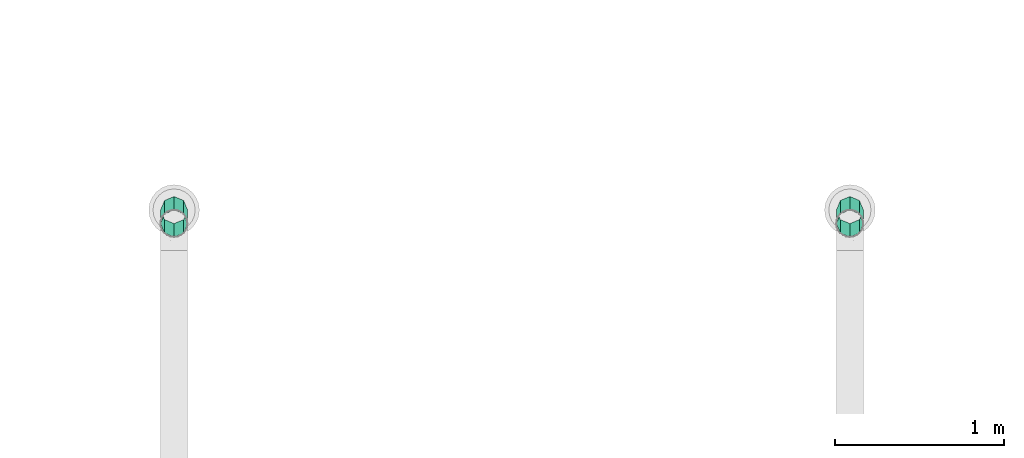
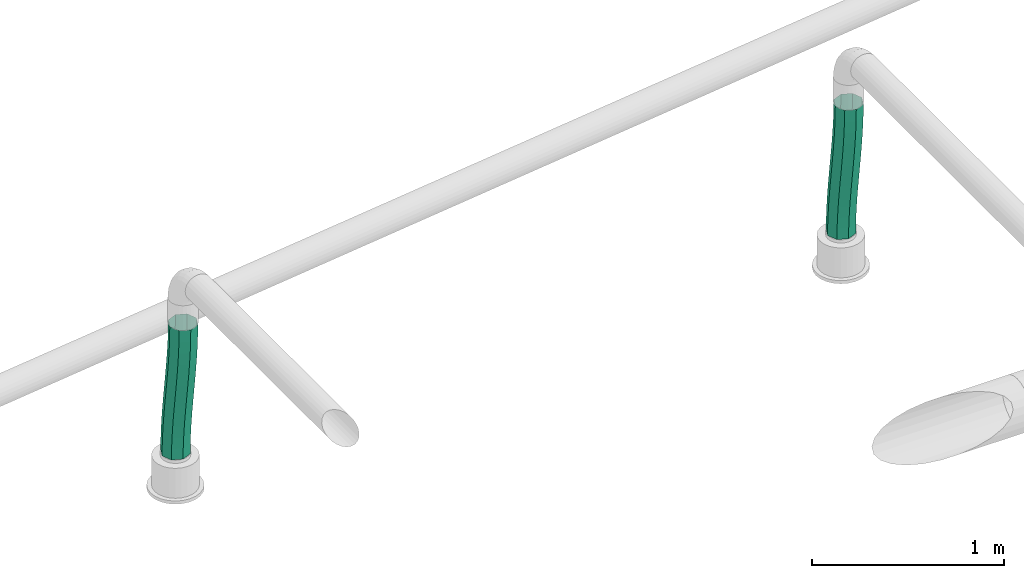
# One storey, part 243 of 374: 2 flow segments.
"""IFC2X3 building model written with IfcOpenShell, lengths in metres."""

from ifc_helpers import new_model, si_unit, direction, origin, place, context, subcontext, project, spatial, open_shell, surface_model, source, transform, mapped, element, save


model = new_model("IFC2X3")

# Units and contexts
model_context = context("Model", 3, precision=1e-05, world=origin(), true_north=direction((-0.4480736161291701, 0.8939966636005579)))
body_context = subcontext(model_context, "Body", "Model", "MODEL_VIEW")
ifc_project = project(units=[si_unit("LENGTHUNIT", "METRE"), si_unit("AREAUNIT", "SQUARE_METRE"), si_unit("VOLUMEUNIT", "CUBIC_METRE"), si_unit("PLANEANGLEUNIT", "RADIAN"), si_unit("THERMODYNAMICTEMPERATUREUNIT", "KELVIN"), si_unit("MASSUNIT", "GRAM", prefix="KILO"), si_unit("TIMEUNIT", "SECOND")], contexts=[model_context])

# Site, building, storey
site_placement = place(None, origin())
site = spatial("IfcSite", under=ifc_project, at=site_placement, Name="Site 1", CompositionType="ELEMENT")
building_placement = place(site_placement, origin())
building = spatial("IfcBuilding", under=site, at=building_placement, Name="Undefined", CompositionType="ELEMENT")
storey_placement = place(building_placement, origin())
storey = spatial("IfcBuildingStorey", under=building, at=storey_placement, Name="Rez de chauss\x8ee", CompositionType="ELEMENT", Elevation=0.0)

# Flow segments
shared_shape_1 = source(origin(), body_context, "Body", "SurfaceModel", [
    surface_model("IfcFaceBasedSurfaceModel", [(0.09425707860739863, 3.552713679e-15, 0.0), (0.05356602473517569, 0.0457522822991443, 1.776356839e-15), (0.0, 0.0, 0.0), (0.03894014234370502, -0.04725143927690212, -1.1507804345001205e-06), (-0.055412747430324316, -0.04404153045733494, 0.0010358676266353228), (-0.017993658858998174, -0.09250640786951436, 0.001061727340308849), (-0.11243304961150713, -0.08679100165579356, 0.002911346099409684), (-0.0762209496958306, -0.13616420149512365, 0.0029758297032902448), (-0.1707571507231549, -0.12862219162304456, 0.005426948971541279), (-0.13541835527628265, -0.17862411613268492, 0.005528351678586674), (-0.2300733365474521, -0.1699145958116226, 0.00837924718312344), (-0.19526250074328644, -0.22028544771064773, 0.008506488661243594), (-0.29006425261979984, -0.21105507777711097, 0.011560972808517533), (-0.25543001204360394, -0.261547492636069, 0.01169743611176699), (-0.3504083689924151, -0.2524387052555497, 0.014761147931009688), (-0.31559752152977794, -0.3028095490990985, 0.014888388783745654), (-0.41078047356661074, -0.2944689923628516, 0.01776513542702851), (-0.37544166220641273, -0.34447090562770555, 0.017866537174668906), (-0.47085117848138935, -0.33755765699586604, 0.020354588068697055), (-0.4346390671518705, -0.3869308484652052, 0.020419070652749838), (-0.5302854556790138, -0.38212378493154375, 0.022307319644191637), (-0.4928663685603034, -0.4305886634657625, 0.022333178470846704), (-0.5887403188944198, -0.4285921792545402, 0.023397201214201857), (-0.5498001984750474, -0.47584363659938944, 0.023396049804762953), (-0.6458081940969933, -0.47734272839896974, 0.023394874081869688), (-0.6051171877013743, -0.5230950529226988, 0.023394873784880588), (0.025061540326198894, 0.07834277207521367, -0.04329419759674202), (-0.02777923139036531, 0.03321146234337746, -0.043293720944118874), (-0.08256193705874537, -0.010327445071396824, -0.04226904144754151), (-0.13908228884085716, -0.05270067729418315, -0.040409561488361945), (-0.19704465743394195, -0.09427144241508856, -0.03790925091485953), (-0.2561421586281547, -0.135411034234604, -0.0349676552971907), (-0.3160599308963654, -0.17650116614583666, -0.031789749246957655), (-0.3764772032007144, -0.21793515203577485, -0.028585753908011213), (-0.43706799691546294, -0.2601182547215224, -0.025571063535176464), (-0.4975004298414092, -0.303467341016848, -0.02296631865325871), (-0.5574346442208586, -0.3484096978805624, -0.02099758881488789), (-0.6165195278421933, -0.3953806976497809, -0.019896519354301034), (-0.6743126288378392, -0.4447521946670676, -0.01989932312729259), (0.02544116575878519, 0.07868040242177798, -0.10452143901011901), (-0.028124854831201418, 0.03292812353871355, -0.10452143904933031), (-0.08353760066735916, -0.011113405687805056, -0.10348557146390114), (-0.14055790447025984, -0.05386287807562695, -0.10161009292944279), (-0.19888201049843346, -0.09569407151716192, -0.09909448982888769), (-0.25819820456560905, -0.13698648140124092, -0.09614219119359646), (-0.3181891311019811, -0.178126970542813, -0.09296046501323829), (-0.3785332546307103, -0.21951060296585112, -0.08976028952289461), (-0.4389053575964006, -0.2615408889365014, -0.08675630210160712), (-0.4989760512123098, -0.3046295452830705, -0.08416684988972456), (-0.5584103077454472, -0.3491956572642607, -0.08221411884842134), (-0.6168651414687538, -0.395664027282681, -0.08112423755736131), (-0.673932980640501, -0.44441454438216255, -0.08112656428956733), (0.05448252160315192, 0.04656739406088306, -0.1478156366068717), (-0.0008344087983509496, -0.0006840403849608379, -0.14781678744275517), (-0.05776820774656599, -0.04593900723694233, -0.14675390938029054), (-0.11599550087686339, -0.08959680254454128, -0.1448398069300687), (-0.17519291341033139, -0.13205672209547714, -0.1422872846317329), (-0.23503707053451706, -0.17371806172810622, -0.13930914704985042), (-0.2952045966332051, -0.21498011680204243, -0.1361181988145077), (-0.35537211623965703, -0.2562421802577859, -0.13292724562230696), (-0.4152162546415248, -0.29790353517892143, -0.12994909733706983), (-0.47441364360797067, -0.3403634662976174, -0.1273965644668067), (-0.5326409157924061, -0.3840212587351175, -0.12548245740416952), (-0.5895747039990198, -0.4292761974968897, -0.12441958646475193), (-0.6448916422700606, -0.47652756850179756, -0.12442076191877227), (0.09517357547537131, 0.0008151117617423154, -0.1478156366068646), (0.038105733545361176, -0.04793547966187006, -0.14781793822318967), (-0.02034911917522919, -0.09440388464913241, -0.14672804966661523), (-0.07978340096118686, -0.13897000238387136, -0.1447753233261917), (-0.13985411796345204, -0.18205864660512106, -0.1421858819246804), (-0.20022623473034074, -0.22408891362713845, -0.13918190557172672), (-0.2605703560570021, -0.2654725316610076, -0.1359817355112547), (-0.32056126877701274, -0.30661302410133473, -0.13280000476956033), (-0.3798774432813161, -0.34790544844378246, -0.1298476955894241), (-0.4382015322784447, -0.389736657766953, -0.12733208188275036), (-0.4952218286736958, -0.43248613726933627, -0.12545659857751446), (-0.5506345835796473, -0.476527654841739, -0.12442073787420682), (-0.6042006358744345, -0.5222798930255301, -0.12442076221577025), (0.12367805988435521, -0.03177537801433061, -0.10452143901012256), (0.06588496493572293, -0.08114694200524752, -0.10452421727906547), (0.006800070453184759, -0.12811797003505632, -0.10342314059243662), (-0.053134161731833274, -0.17306032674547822, -0.10145441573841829), (-0.11356661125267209, -0.2164093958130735, -0.09884968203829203), (-0.17415741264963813, -0.2585924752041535, -0.09583500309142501), (-0.2345746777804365, -0.30002644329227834, -0.09263101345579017), (-0.294492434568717, -0.34111657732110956, -0.08945310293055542), (-0.35358991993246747, -0.38225618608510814, -0.08651149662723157), (-0.41155228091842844, -0.423826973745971, -0.08401117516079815), (-0.46807264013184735, -0.46620022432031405, -0.08215169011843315), (-0.5228553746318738, -0.5097391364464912, -0.0811270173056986), (-0.5756962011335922, -0.5548704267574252, -0.08112656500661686), (0.12329843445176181, -0.03211300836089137, -0.0432941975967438), (0.06623058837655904, -0.08086360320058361, -0.04329649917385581), (0.007775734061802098, -0.12733200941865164, -0.042206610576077), (-0.05165854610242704, -0.17189812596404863, -0.04025388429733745), (-0.11172925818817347, -0.2149867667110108, -0.03766444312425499), (-0.1721013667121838, -0.25701702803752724, -0.03466046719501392), (-0.23244547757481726, -0.29840063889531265, -0.03146029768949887), (-0.29243638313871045, -0.3395411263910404, -0.028278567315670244), (-0.3517525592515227, -0.38083355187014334, -0.025326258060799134), (-0.4100766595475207, -0.4226647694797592, -0.022810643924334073), (-0.4670969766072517, -0.4654142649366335, -0.02093516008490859), (-0.5225097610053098, -0.5094558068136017, -0.019899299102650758), (-0.5760758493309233, -0.5552080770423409, -0.019899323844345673)], [open_shell([[[0, 1, 2]], [[2, 3, 0]], [[3, 2, 4]], [[4, 5, 3]], [[5, 4, 6]], [[6, 7, 5]], [[7, 6, 8]], [[8, 9, 7]], [[9, 8, 10]], [[10, 11, 9]], [[11, 10, 12]], [[12, 13, 11]], [[13, 12, 14]], [[14, 15, 13]], [[15, 14, 16]], [[16, 17, 15]], [[17, 16, 18]], [[18, 19, 17]], [[19, 18, 20]], [[20, 21, 19]], [[21, 20, 22]], [[22, 23, 21]], [[23, 22, 24]], [[24, 25, 23]], [[1, 26, 27]], [[27, 2, 1]], [[2, 27, 28]], [[28, 4, 2]], [[4, 28, 29]], [[29, 6, 4]], [[6, 29, 30]], [[30, 8, 6]], [[8, 30, 31]], [[31, 10, 8]], [[10, 31, 32]], [[32, 12, 10]], [[12, 32, 33]], [[33, 14, 12]], [[14, 33, 34]], [[34, 16, 14]], [[16, 34, 35]], [[35, 18, 16]], [[18, 35, 36]], [[36, 20, 18]], [[20, 36, 37]], [[37, 22, 20]], [[22, 37, 38]], [[38, 24, 22]], [[26, 39, 40]], [[40, 27, 26]], [[27, 40, 41]], [[41, 28, 27]], [[28, 41, 42]], [[42, 29, 28]], [[29, 42, 43]], [[43, 30, 29]], [[30, 43, 44]], [[44, 31, 30]], [[31, 44, 45]], [[45, 32, 31]], [[32, 45, 46]], [[46, 33, 32]], [[33, 46, 47]], [[47, 34, 33]], [[34, 47, 48]], [[48, 35, 34]], [[35, 48, 49]], [[49, 36, 35]], [[36, 49, 50]], [[50, 37, 36]], [[37, 50, 51]], [[51, 38, 37]], [[39, 52, 53]], [[53, 40, 39]], [[40, 53, 54]], [[54, 41, 40]], [[41, 54, 55]], [[55, 42, 41]], [[42, 55, 56]], [[56, 43, 42]], [[43, 56, 57]], [[57, 44, 43]], [[44, 57, 58]], [[58, 45, 44]], [[45, 58, 59]], [[59, 46, 45]], [[46, 59, 60]], [[60, 47, 46]], [[47, 60, 61]], [[61, 48, 47]], [[48, 61, 62]], [[62, 49, 48]], [[49, 62, 63]], [[63, 50, 49]], [[50, 63, 64]], [[64, 51, 50]], [[52, 65, 66]], [[66, 53, 52]], [[53, 66, 67]], [[67, 54, 53]], [[54, 67, 68]], [[68, 55, 54]], [[55, 68, 69]], [[69, 56, 55]], [[56, 69, 70]], [[70, 57, 56]], [[57, 70, 71]], [[71, 58, 57]], [[58, 71, 72]], [[72, 59, 58]], [[59, 72, 73]], [[73, 60, 59]], [[60, 73, 74]], [[74, 61, 60]], [[61, 74, 75]], [[75, 62, 61]], [[62, 75, 76]], [[76, 63, 62]], [[63, 76, 77]], [[77, 64, 63]], [[65, 78, 79]], [[79, 66, 65]], [[66, 79, 80]], [[80, 67, 66]], [[67, 80, 81]], [[81, 68, 67]], [[68, 81, 82]], [[82, 69, 68]], [[69, 82, 83]], [[83, 70, 69]], [[70, 83, 84]], [[84, 71, 70]], [[71, 84, 85]], [[85, 72, 71]], [[72, 85, 86]], [[86, 73, 72]], [[73, 86, 87]], [[87, 74, 73]], [[74, 87, 88]], [[88, 75, 74]], [[75, 88, 89]], [[89, 76, 75]], [[76, 89, 90]], [[90, 77, 76]], [[78, 91, 92]], [[92, 79, 78]], [[79, 92, 93]], [[93, 80, 79]], [[80, 93, 94]], [[94, 81, 80]], [[81, 94, 95]], [[95, 82, 81]], [[82, 95, 96]], [[96, 83, 82]], [[83, 96, 97]], [[97, 84, 83]], [[84, 97, 98]], [[98, 85, 84]], [[85, 98, 99]], [[99, 86, 85]], [[86, 99, 100]], [[100, 87, 86]], [[87, 100, 101]], [[101, 88, 87]], [[88, 101, 102]], [[102, 89, 88]], [[89, 102, 103]], [[103, 90, 89]], [[91, 0, 3]], [[3, 92, 91]], [[92, 3, 5]], [[5, 93, 92]], [[93, 5, 7]], [[7, 94, 93]], [[94, 7, 9]], [[9, 95, 94]], [[95, 9, 11]], [[11, 96, 95]], [[96, 11, 13]], [[13, 97, 96]], [[97, 13, 15]], [[15, 98, 97]], [[98, 15, 17]], [[17, 99, 98]], [[99, 17, 19]], [[19, 100, 99]], [[100, 19, 21]], [[21, 101, 100]], [[101, 21, 23]], [[23, 102, 101]], [[102, 23, 25]], [[25, 103, 102]]])]),
])
flow_segment_1_placement = place(storey_placement, origin())
element("IfcFlowSegment", 1, at=flow_segment_1_placement, inside=storey, Name="Tube flexible", ObjectType="Tube flexible", context=body_context, shape_type="MappedRepresentation", body=[
    mapped(shared_shape_1, transform((22.23343239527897, 26.008094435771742, 3.409570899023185), x_axis=(-0.24859098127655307, -0.6163532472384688, 0.7472022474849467), y_axis=(0.29104621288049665, 0.6882384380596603, 0.664544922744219), z_axis=(-0.9238477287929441, 0.38267025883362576, 0.008297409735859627))),
])
shared_shape_2 = source(origin(), body_context, "Body", "SurfaceModel", [
    surface_model("IfcFaceBasedSurfaceModel", [(0.09425707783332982, 7.105427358e-15, -8.8817842e-16), (0.053566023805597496, 0.0457522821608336, -8.8817842e-16), (0.0, 0.0, 0.0), (0.038940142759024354, -0.04725143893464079, -1.1508020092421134e-06), (-0.05541274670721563, -0.04404153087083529, 0.001035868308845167), (-0.017993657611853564, -0.09250640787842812, 0.0010617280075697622), (-0.11243304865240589, -0.08679100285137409, 0.0029113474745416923), (-0.07622094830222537, -0.13616420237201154, 0.0029758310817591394), (-0.17075715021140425, -0.12862219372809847, 0.005426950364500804), (-0.1354183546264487, -0.1786241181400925, 0.005528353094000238), (-0.23007333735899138, -0.16991459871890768, 0.008379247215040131), (-0.19526250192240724, -0.2202854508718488, 0.008506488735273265), (-0.2900642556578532, -0.2110550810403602, 0.011560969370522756), (-0.2554300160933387, -0.2615474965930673, 0.011697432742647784), (-0.3504083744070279, -0.2524387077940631, 0.01476113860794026), (-0.3155975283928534, -0.3028095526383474, 0.014888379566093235), (-0.410780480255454, -0.29446899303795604, 0.017765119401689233), (-0.3754416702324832, -0.34447090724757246, 0.017866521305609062), (-0.4708511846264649, -0.33755765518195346, 0.020354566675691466), (-0.43463907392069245, -0.3869308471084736, 0.020419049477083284), (-0.5302854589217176, -0.3821237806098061, 0.022307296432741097), (-0.4928663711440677, -0.4305886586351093, 0.02233315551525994), (-0.5887403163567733, -0.42859217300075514, 0.02339718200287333), (-0.5498001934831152, -0.47584362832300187, 0.02339603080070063), (-0.6458081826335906, -0.4773427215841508, 0.023394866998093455), (-0.6051171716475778, -0.5230950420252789, 0.02339486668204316), (0.02506153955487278, 0.07834277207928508, -0.04329419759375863), (-0.027779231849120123, 0.033211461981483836, -0.04329372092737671), (-0.08256193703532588, -0.010327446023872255, -0.042269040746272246), (-0.13908228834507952, -0.05270067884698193, -0.04040956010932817), (-0.19704465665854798, -0.09427144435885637, -0.03790924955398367), (-0.2561421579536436, -0.13541103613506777, -0.03496765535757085), (-0.3160599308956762, -0.17650116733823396, -0.03178975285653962), (-0.37647720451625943, -0.21793515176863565, -0.028585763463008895), (-0.4370679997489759, -0.2601182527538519, -0.025571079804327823), (-0.4975004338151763, -0.3034673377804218, -0.022966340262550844), (-0.5574346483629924, -0.34840969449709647, -0.02099761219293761), (-0.6165195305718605, -0.3953806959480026, -0.019896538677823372), (-0.6743126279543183, -0.44475219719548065, -0.01989933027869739), (0.02544116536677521, 0.07868040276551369, -0.10452143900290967), (-0.028124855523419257, 0.03292812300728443, -0.1045214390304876), (-0.08353760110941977, -0.0111134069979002, -0.10348557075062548), (-0.1405579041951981, -0.05386287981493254, -0.10161009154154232), (-0.19888200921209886, -0.09569407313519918, -0.09909448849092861), (-0.2581982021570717, -0.13698648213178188, -0.09614219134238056), (-0.31818912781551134, -0.17812696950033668, -0.09296046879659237), (-0.37853325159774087, -0.2195105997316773, -0.08976029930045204), (-0.43890535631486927, -0.26154088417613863, -0.08675631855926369), (-0.49897605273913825, -0.30462954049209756, -0.0841668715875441), (-0.5584103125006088, -0.34919565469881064, -0.08221414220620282), (-0.6168651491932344, -0.39566402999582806, -0.08112425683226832), (-0.6739329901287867, -0.4444145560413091, -0.08112657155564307), (0.05448252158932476, 0.04656739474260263, -0.14781563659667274), (-0.0008344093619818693, -0.0006840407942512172, -0.14781678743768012), (-0.05776820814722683, -0.04593900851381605, -0.146753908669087), (-0.11599550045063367, -0.08959680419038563, -0.1448398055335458), (-0.17519291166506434, -0.13205672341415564, -0.14228728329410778), (-0.2350370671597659, -0.17371806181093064, -0.13930914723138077), (-0.29520459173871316, -0.21498011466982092, -0.13611820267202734), (-0.35537211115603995, -0.25624217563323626, -0.13292725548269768), (-0.4152162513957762, -0.29790352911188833, -0.12994911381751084), (-0.4744136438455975, -0.34036346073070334, -0.12739658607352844), (-0.5326409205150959, -0.38402125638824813, -0.12548248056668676), (-0.5895747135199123, -0.4292762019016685, -0.12441960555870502), (-0.6448916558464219, -0.4765275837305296, -0.12442076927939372), (0.09517357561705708, 0.0008151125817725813, -0.1478156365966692), (0.03810573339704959, -0.04793547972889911, -0.14781793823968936), (-0.020349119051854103, -0.09440388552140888, -0.14672804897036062), (-0.07978340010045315, -0.13897000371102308, -0.14477532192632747), (-0.13985411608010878, -0.18205864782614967, -0.14218588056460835), (-0.20022623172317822, -0.22408891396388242, -0.13918190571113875), (-0.26057035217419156, -0.26547253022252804, -0.1359817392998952), (-0.32056126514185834, -0.30661302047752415, -0.13280001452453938), (-0.3798774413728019, -0.34790544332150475, -0.1298477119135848), (-0.43820153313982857, -0.38973665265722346, -0.12733210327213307), (-0.495221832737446, -0.4324861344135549, -0.12545662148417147), (-0.5506345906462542, -0.4765276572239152, -0.12442075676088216), (-0.6042006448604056, -0.5222799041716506, -0.12442076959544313), (0.1236780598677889, -0.0317753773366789, -0.10452143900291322), (0.06588496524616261, -0.08114694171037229, -0.10452421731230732), (0.006800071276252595, -0.1281179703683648, -0.10342313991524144), (-0.05313416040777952, -0.17306032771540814, -0.10145441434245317), (-0.11356660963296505, -0.21640939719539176, -0.09884968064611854), (-0.174157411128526, -0.2585924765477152, -0.09583500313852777), (-0.23457467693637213, -0.3000264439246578, -0.09263101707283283), (-0.2944924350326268, -0.34111657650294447, -0.08945311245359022), (-0.35358992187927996, -0.38225618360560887, -0.08651151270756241), (-0.4115522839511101, -0.42382697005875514, -0.08401119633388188), (-0.4680726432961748, -0.466200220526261, -0.08215171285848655), (-0.5228553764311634, -0.5097391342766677, -0.08112703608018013), (-0.5756961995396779, -0.5548704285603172, -0.08112657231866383), (0.12329843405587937, -0.03211300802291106, -0.04329419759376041), (0.0662305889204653, -0.08086360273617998, -0.043296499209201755), (0.007775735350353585, -0.12733200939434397, -0.04220660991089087), (-0.05165854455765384, -0.17189812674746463, -0.04025388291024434), (-0.11172925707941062, -0.2149867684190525, -0.03766444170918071), (-0.17210136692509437, -0.25701703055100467, -0.03466046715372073), (-0.23244548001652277, -0.29840064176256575, -0.031460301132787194), (-0.2924363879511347, -0.3395411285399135, -0.028278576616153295), (-0.3517525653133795, -0.3808335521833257, -0.02532627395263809), (-0.41007666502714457, -0.4226647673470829, -0.022810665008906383), (-0.46709697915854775, -0.46541426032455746, -0.020935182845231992), (-0.5225097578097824, -0.509455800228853, -0.01989931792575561), (-0.5760758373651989, -0.5552080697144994, -0.019899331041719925)], [open_shell([[[0, 1, 2]], [[2, 3, 0]], [[3, 2, 4]], [[4, 5, 3]], [[5, 4, 6]], [[6, 7, 5]], [[7, 6, 8]], [[8, 9, 7]], [[9, 8, 10]], [[10, 11, 9]], [[11, 10, 12]], [[12, 13, 11]], [[13, 12, 14]], [[14, 15, 13]], [[15, 14, 16]], [[16, 17, 15]], [[17, 16, 18]], [[18, 19, 17]], [[19, 18, 20]], [[20, 21, 19]], [[21, 20, 22]], [[22, 23, 21]], [[23, 22, 24]], [[24, 25, 23]], [[1, 26, 27]], [[27, 2, 1]], [[2, 27, 28]], [[28, 4, 2]], [[4, 28, 29]], [[29, 6, 4]], [[6, 29, 30]], [[30, 8, 6]], [[8, 30, 31]], [[31, 10, 8]], [[10, 31, 32]], [[32, 12, 10]], [[12, 32, 33]], [[33, 14, 12]], [[14, 33, 34]], [[34, 16, 14]], [[16, 34, 35]], [[35, 18, 16]], [[18, 35, 36]], [[36, 20, 18]], [[20, 36, 37]], [[37, 22, 20]], [[22, 37, 38]], [[38, 24, 22]], [[26, 39, 40]], [[40, 27, 26]], [[27, 40, 41]], [[41, 28, 27]], [[28, 41, 42]], [[42, 29, 28]], [[29, 42, 43]], [[43, 30, 29]], [[30, 43, 44]], [[44, 31, 30]], [[31, 44, 45]], [[45, 32, 31]], [[32, 45, 46]], [[46, 33, 32]], [[33, 46, 47]], [[47, 34, 33]], [[34, 47, 48]], [[48, 35, 34]], [[35, 48, 49]], [[49, 36, 35]], [[36, 49, 50]], [[50, 37, 36]], [[37, 50, 51]], [[51, 38, 37]], [[39, 52, 53]], [[53, 40, 39]], [[40, 53, 54]], [[54, 41, 40]], [[41, 54, 55]], [[55, 42, 41]], [[42, 55, 56]], [[56, 43, 42]], [[43, 56, 57]], [[57, 44, 43]], [[44, 57, 58]], [[58, 45, 44]], [[45, 58, 59]], [[59, 46, 45]], [[46, 59, 60]], [[60, 47, 46]], [[47, 60, 61]], [[61, 48, 47]], [[48, 61, 62]], [[62, 49, 48]], [[49, 62, 63]], [[63, 50, 49]], [[50, 63, 64]], [[64, 51, 50]], [[52, 65, 66]], [[66, 53, 52]], [[53, 66, 67]], [[67, 54, 53]], [[54, 67, 68]], [[68, 55, 54]], [[55, 68, 69]], [[69, 56, 55]], [[56, 69, 70]], [[70, 57, 56]], [[57, 70, 71]], [[71, 58, 57]], [[58, 71, 72]], [[72, 59, 58]], [[59, 72, 73]], [[73, 60, 59]], [[60, 73, 74]], [[74, 61, 60]], [[61, 74, 75]], [[75, 62, 61]], [[62, 75, 76]], [[76, 63, 62]], [[63, 76, 77]], [[77, 64, 63]], [[65, 78, 79]], [[79, 66, 65]], [[66, 79, 80]], [[80, 67, 66]], [[67, 80, 81]], [[81, 68, 67]], [[68, 81, 82]], [[82, 69, 68]], [[69, 82, 83]], [[83, 70, 69]], [[70, 83, 84]], [[84, 71, 70]], [[71, 84, 85]], [[85, 72, 71]], [[72, 85, 86]], [[86, 73, 72]], [[73, 86, 87]], [[87, 74, 73]], [[74, 87, 88]], [[88, 75, 74]], [[75, 88, 89]], [[89, 76, 75]], [[76, 89, 90]], [[90, 77, 76]], [[78, 91, 92]], [[92, 79, 78]], [[79, 92, 93]], [[93, 80, 79]], [[80, 93, 94]], [[94, 81, 80]], [[81, 94, 95]], [[95, 82, 81]], [[82, 95, 96]], [[96, 83, 82]], [[83, 96, 97]], [[97, 84, 83]], [[84, 97, 98]], [[98, 85, 84]], [[85, 98, 99]], [[99, 86, 85]], [[86, 99, 100]], [[100, 87, 86]], [[87, 100, 101]], [[101, 88, 87]], [[88, 101, 102]], [[102, 89, 88]], [[89, 102, 103]], [[103, 90, 89]], [[91, 0, 3]], [[3, 92, 91]], [[92, 3, 5]], [[5, 93, 92]], [[93, 5, 7]], [[7, 94, 93]], [[94, 7, 9]], [[9, 95, 94]], [[95, 9, 11]], [[11, 96, 95]], [[96, 11, 13]], [[13, 97, 96]], [[97, 13, 15]], [[15, 98, 97]], [[98, 15, 17]], [[17, 99, 98]], [[99, 17, 19]], [[19, 100, 99]], [[100, 19, 21]], [[21, 101, 100]], [[101, 21, 23]], [[23, 102, 101]], [[102, 23, 25]], [[25, 103, 102]]])]),
])
flow_segment_2_placement = place(storey_placement, origin())
element("IfcFlowSegment", 2, at=flow_segment_2_placement, inside=storey, Name="Tube flexible", ObjectType="Tube flexible", context=body_context, shape_type="MappedRepresentation", body=[
    mapped(shared_shape_2, transform((18.233432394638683, 26.00809443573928, 3.4095708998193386), x_axis=(-0.24859097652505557, -0.6163532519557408, 0.7472022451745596), y_axis=(0.291046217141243, 0.6882384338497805, 0.6645449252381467), z_axis=(-0.9238477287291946, 0.38267025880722, 0.008297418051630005))),
])

save(model, "model.ifc")
